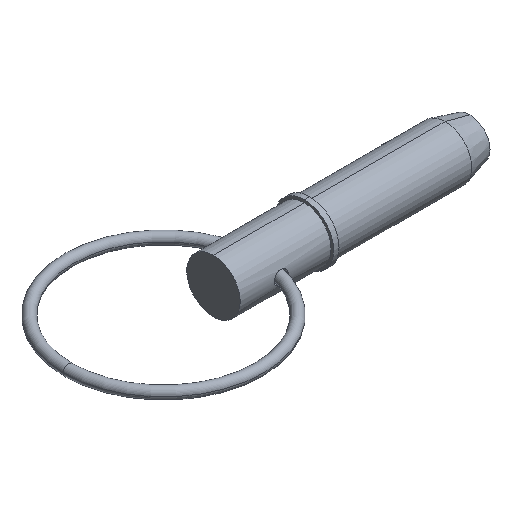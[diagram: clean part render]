
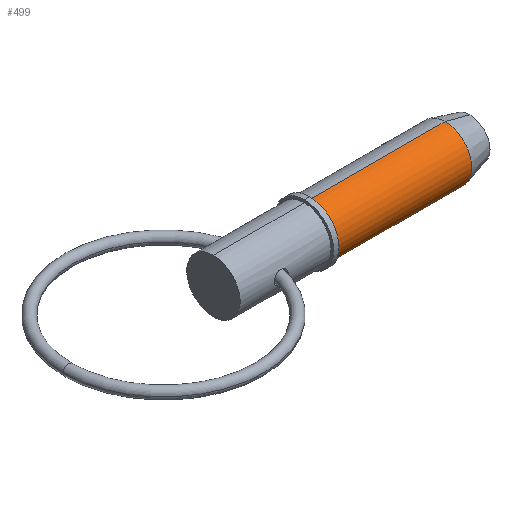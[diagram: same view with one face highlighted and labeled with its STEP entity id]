
A CAD part, isometric view. The second image highlights one B-rep face of the part: STEP entity #499.
In plain terms, the highlighted cylindrical face has radius 7.145 mm (diameter 14.29 mm), a partial arc.
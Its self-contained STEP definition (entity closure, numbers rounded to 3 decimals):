
#12 = ORIENTED_EDGE ( 'NONE', *, *, #338, .T. ) ;
#15 = DIRECTION ( 'NONE',  ( 1., 0., 0. ) ) ;
#44 = CARTESIAN_POINT ( 'NONE',  ( 25.7, 0., 0. ) ) ;
#81 = AXIS2_PLACEMENT_3D ( 'NONE', #44, #713, #222 ) ;
#82 = LINE ( 'NONE', #682, #936 ) ;
#89 = EDGE_CURVE ( 'NONE', #397, #935, #1016, .T. ) ;
#109 = CARTESIAN_POINT ( 'NONE',  ( 0., 0., 0. ) ) ;
#125 = DIRECTION ( 'NONE',  ( 1., 0., 0. ) ) ;
#167 = AXIS2_PLACEMENT_3D ( 'NONE', #642, #125, #796 ) ;
#172 = EDGE_CURVE ( 'NONE', #397, #1014, #274, .T. ) ;
#180 = DIRECTION ( 'NONE',  ( 1., 0., 0. ) ) ;
#222 = DIRECTION ( 'NONE',  ( 0., 0., -1. ) ) ;
#271 = EDGE_CURVE ( 'NONE', #935, #310, #743, .T. ) ;
#274 = CIRCLE ( 'NONE', #81, 7.145 ) ;
#310 = VERTEX_POINT ( 'NONE', #612 ) ;
#338 = EDGE_CURVE ( 'NONE', #1014, #310, #82, .T. ) ;
#343 = ORIENTED_EDGE ( 'NONE', *, *, #271, .F. ) ;
#364 = DIRECTION ( 'NONE',  ( 1., 0., 0. ) ) ;
#378 = FACE_OUTER_BOUND ( 'NONE', #901, .T. ) ;
#397 = VERTEX_POINT ( 'NONE', #848 ) ;
#432 = AXIS2_PLACEMENT_3D ( 'NONE', #109, #364, #718 ) ;
#498 = VECTOR ( 'NONE', #180, 1000. ) ;
#499 = ADVANCED_FACE ( 'NONE', ( #378 ), #659, .T. ) ;
#597 = CARTESIAN_POINT ( 'NONE',  ( 0., 0., 7.145 ) ) ;
#612 = CARTESIAN_POINT ( 'NONE',  ( 61.884, 0., -7.145 ) ) ;
#642 = CARTESIAN_POINT ( 'NONE',  ( 61.884, 0., 0. ) ) ;
#659 = CYLINDRICAL_SURFACE ( 'NONE', #432, 7.145 ) ;
#682 = CARTESIAN_POINT ( 'NONE',  ( 0., 0., -7.145 ) ) ;
#713 = DIRECTION ( 'NONE',  ( 1., 0., 0. ) ) ;
#718 = DIRECTION ( 'NONE',  ( 0., 0., -1. ) ) ;
#743 = CIRCLE ( 'NONE', #167, 7.145 ) ;
#796 = DIRECTION ( 'NONE',  ( 0., 0., -1. ) ) ;
#848 = CARTESIAN_POINT ( 'NONE',  ( 25.7, 0., 7.145 ) ) ;
#896 = ORIENTED_EDGE ( 'NONE', *, *, #172, .T. ) ;
#901 = EDGE_LOOP ( 'NONE', ( #1036, #896, #12, #343 ) ) ;
#935 = VERTEX_POINT ( 'NONE', #1033 ) ;
#936 = VECTOR ( 'NONE', #15, 1000. ) ;
#1014 = VERTEX_POINT ( 'NONE', #1020 ) ;
#1016 = LINE ( 'NONE', #597, #498 ) ;
#1020 = CARTESIAN_POINT ( 'NONE',  ( 25.7, 0., -7.145 ) ) ;
#1033 = CARTESIAN_POINT ( 'NONE',  ( 61.884, 0., 7.145 ) ) ;
#1036 = ORIENTED_EDGE ( 'NONE', *, *, #89, .F. ) ;
